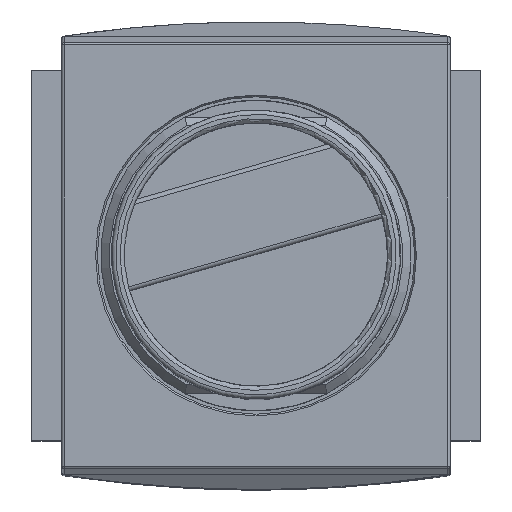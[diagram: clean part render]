
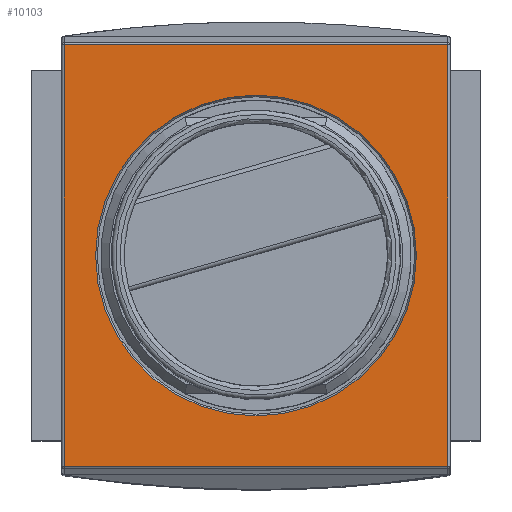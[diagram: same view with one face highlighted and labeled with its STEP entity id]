
A CAD part, top view. The second image highlights one B-rep face of the part: STEP entity #10103.
In plain terms, the highlighted planar face has unit normal (0, 0, 1).
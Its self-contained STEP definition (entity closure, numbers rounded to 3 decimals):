
#9897=CARTESIAN_POINT('',(-22.25,-24.458,34.0));
#9898=VERTEX_POINT('',#9897);
#9906=CARTESIAN_POINT('',(-22.25,24.431,34.0));
#9907=VERTEX_POINT('',#9906);
#9908=CARTESIAN_POINT('',(-22.25,-24.458,34.0));
#9909=DIRECTION('',(0.0,1.0,0.0));
#9910=VECTOR('',#9909,48.889);
#9911=LINE('',#9908,#9910);
#9912=EDGE_CURVE('',#9898,#9907,#9911,.T.);
#10050=CARTESIAN_POINT('',(22.25,24.431,34.0));
#10051=VERTEX_POINT('',#10050);
#10052=CARTESIAN_POINT('',(-22.25,24.431,34.0));
#10053=DIRECTION('',(1.0,0.0,0.0));
#10054=VECTOR('',#10053,44.5);
#10055=LINE('',#10052,#10054);
#10056=EDGE_CURVE('',#9907,#10051,#10055,.T.);
#10069=CARTESIAN_POINT('',(0.,0.,34.0));
#10070=DIRECTION('',(0.0,0.0,-1.0));
#10071=DIRECTION('',(0.0,1.0,0.0));
#10072=AXIS2_PLACEMENT_3D('',#10069,#10070,#10071);
#10073=PLANE('',#10072);
#10074=ORIENTED_EDGE('',*,*,#9912,.F.);
#10075=CARTESIAN_POINT('',(22.25,-24.458,34.0));
#10076=VERTEX_POINT('',#10075);
#10077=CARTESIAN_POINT('',(22.25,-24.458,34.0));
#10078=DIRECTION('',(-1.0,0.0,0.0));
#10079=VECTOR('',#10078,44.5);
#10080=LINE('',#10077,#10079);
#10081=EDGE_CURVE('',#10076,#9898,#10080,.T.);
#10082=ORIENTED_EDGE('',*,*,#10081,.F.);
#10083=CARTESIAN_POINT('',(22.25,24.431,34.0));
#10084=DIRECTION('',(0.0,-1.0,0.0));
#10085=VECTOR('',#10084,48.889);
#10086=LINE('',#10083,#10085);
#10087=EDGE_CURVE('',#10051,#10076,#10086,.T.);
#10088=ORIENTED_EDGE('',*,*,#10087,.F.);
#10089=ORIENTED_EDGE('',*,*,#10056,.F.);
#10090=EDGE_LOOP('',(#10074,#10082,#10088,#10089));
#10091=FACE_OUTER_BOUND('',#10090,.T.);
#10092=CARTESIAN_POINT('',(0.,18.6,34.0));
#10093=VERTEX_POINT('',#10092);
#10094=CARTESIAN_POINT('',(0.,0.,34.0));
#10095=DIRECTION('',(0.0,0.0,-1.0));
#10096=DIRECTION('',(0.0,-1.0,0.0));
#10097=AXIS2_PLACEMENT_3D('',#10094,#10095,#10096);
#10098=CIRCLE('',#10097,18.6);
#10099=EDGE_CURVE('',#10093,#10093,#10098,.T.);
#10100=ORIENTED_EDGE('',*,*,#10099,.T.);
#10101=EDGE_LOOP('',(#10100));
#10102=FACE_BOUND('',#10101,.T.);
#10103=ADVANCED_FACE('',(#10091,#10102),#10073,.F.);
